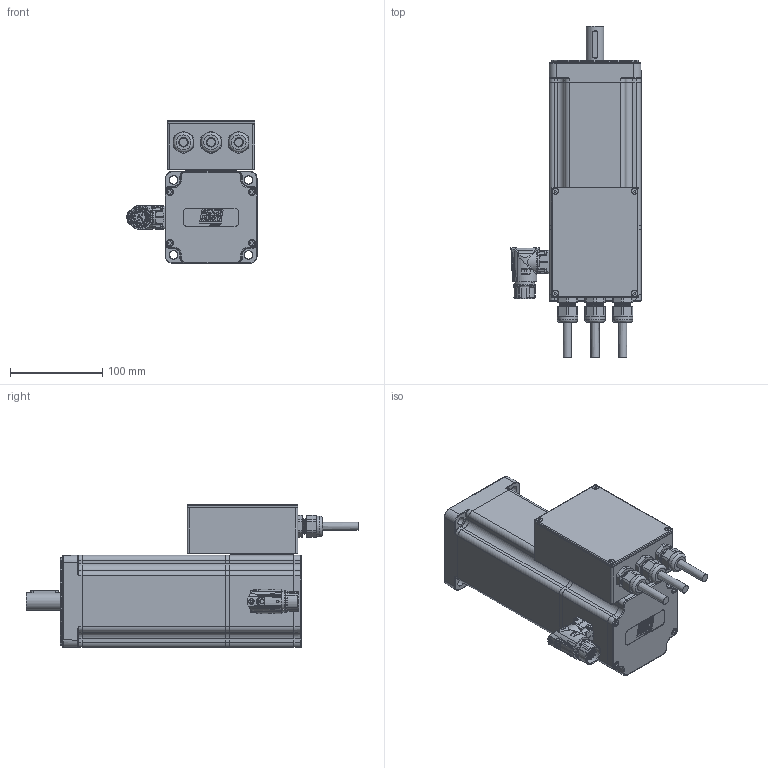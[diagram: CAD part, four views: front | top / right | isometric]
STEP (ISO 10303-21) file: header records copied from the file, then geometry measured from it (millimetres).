
FILE_DESCRIPTION(/* description */ ('Unknown'),/* implementation_level */ '2;1');
FILE_NAME(/* name */ 'TC4-100.4B LV M1 MORS Q0BQ22',/* time_stamp */ '2026-06-10T08:22:43+02:00',/* author */ ('Unknown'),/* organization */ ('Unknown'),/* preprocessor_version */ 'ST-DEVELOPER v19.4',/* originating_system */ 'Solid Edge',/* authorisation */ 'Unknown');
FILE_SCHEMA (('AUTOMOTIVE_DESIGN {1 0 10303 214 3 1 1}'));
Products named in the file (22): Q0BQ22 4B M1 VUOTO; 007117000454; 005119000312; 003303000000; 005113000500; Albero TC4-100 H 90 LV A19 CH PR. R1 STD; Calotta TC4 100 LV asola maggiorata V2; 005911001407; Distanziale campana  4B PR MORS; 003107003287; scatola post; 005911000200; capicorda a occhiello A 3 M8; cavo AWG 6 uscita 8,9 curv; guar scatola; 005603001500; 005911000262; coperchio scatola morsettiera; 003251040721; 005911000208; dispersore TC4-100 4B LV M3; 005911000185
Assembly tree (42 placements, depth 2):
  Q0BQ22 4B M1 VUOTO
    007117000454
    005119000312
    003303000000
    005113000500
    Albero TC4-100 H 90 LV A19 CH PR. R1 STD
    Calotta TC4 100 LV asola maggiorata V2
    005911001407  x4
    Distanziale campana  4B PR MORS
    003107003287
    scatola post
    005911000200  x4
    capicorda a occhiello A 3 M8  x3
    cavo AWG 6 uscita 8,9 curv  x3
    guar scatola
    005603001500  x3
    005911000262  x4
    coperchio scatola morsettiera
    003251040721
    005911000208  x4
    dispersore TC4-100 4B LV M3
    005911000185  x4
Bounding box: 141.4 x 360.51 x 155.2 mm (x, y, z)
Volume: 1057057 mm3; surface area: 431011 mm2
Topology: 44 solids, 44 shells, 2306 faces, 5735 edges, 3662 vertices
Faces by surface type: plane 1041, cylinder 602, cone 244, bspline 232, torus 120, sphere 67
Full cylindrical faces by diameter (mm): 0.5 x1, 1 x17, 1.2 x17, 2.013 x4, 2.459 x12, 2.5 x4, 2.52 x4, 3 x20, 3.242 x34, 3.3 x1, 3.5 x8, 4 x9, 4.3 x1, 4.5 x21, 4.7 x4, 4.917 x3, 5.5 x5, 5.8 x3, 5.9 x1, 6.4 x1, 7 x8, 7.8 x3, 8 x5, 8.004 x4, 8.4 x3, 10.2 x3, 13.5 x3, 15.2 x1, 16.99 x1, 17 x1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
Entity records: 76693 total; most frequent: CARTESIAN_POINT 20989, ORIENTED_EDGE 8728, DIRECTION 8687, EDGE_CURVE 4364, AXIS2_PLACEMENT_3D 3339, VERTEX_POINT 3003, FACE_BOUND 2623, EDGE_LOOP 2598
